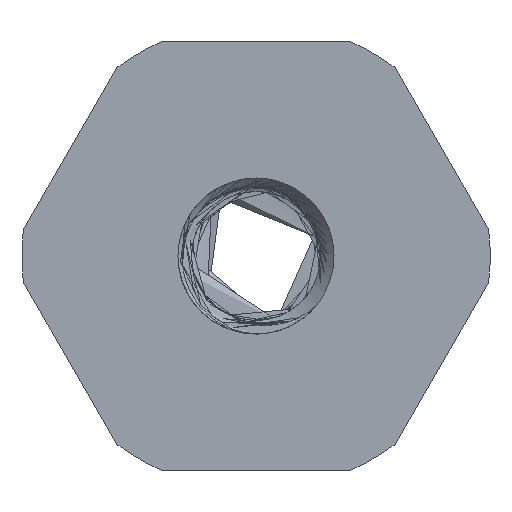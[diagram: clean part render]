
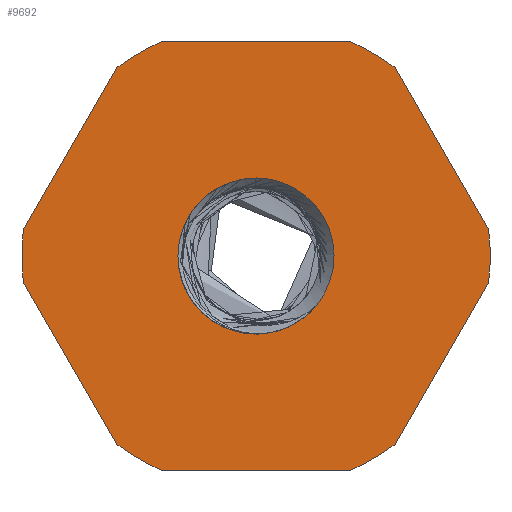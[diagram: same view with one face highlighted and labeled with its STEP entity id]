
A CAD part, front view. The second image highlights one B-rep face of the part: STEP entity #9692.
In plain terms, the highlighted planar face has unit normal (0, -1, 0).
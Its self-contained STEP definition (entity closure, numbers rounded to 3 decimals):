
#29 = CARTESIAN_POINT ( 'NONE',  ( 2.398, 0., 5.5 ) ) ;
#51 = DIRECTION ( 'NONE',  ( 0., 0., 1. ) ) ;
#133 = LINE ( 'NONE', #8823, #10367 ) ;
#136 = VERTEX_POINT ( 'NONE', #324 ) ;
#218 = DIRECTION ( 'NONE',  ( 0., 0., 1. ) ) ;
#291 = EDGE_LOOP ( 'NONE', ( #2740, #8878, #4770, #11653 ) ) ;
#324 = CARTESIAN_POINT ( 'NONE',  ( 3.564, 0., 4.827 ) ) ;
#389 = CARTESIAN_POINT ( 'NONE',  ( 0., 0., 0. ) ) ;
#499 = VERTEX_POINT ( 'NONE', #29 ) ;
#568 = CARTESIAN_POINT ( 'NONE',  ( 0.239, 0., -1.986 ) ) ;
#615 = DIRECTION ( 'NONE',  ( 0., 1., 0. ) ) ;
#748 = ORIENTED_EDGE ( 'NONE', *, *, #10856, .F. ) ;
#826 = DIRECTION ( 'NONE',  ( 1., 0., 0. ) ) ;
#842 = DIRECTION ( 'NONE',  ( 0., 1., 0. ) ) ;
#902 = AXIS2_PLACEMENT_3D ( 'NONE', #1984, #842, #10265 ) ;
#905 = CARTESIAN_POINT ( 'NONE',  ( 0., 0., 0. ) ) ;
#986 = DIRECTION ( 'NONE',  ( 0., 1., 0. ) ) ;
#1097 = VERTEX_POINT ( 'NONE', #7416 ) ;
#1451 = CIRCLE ( 'NONE', #10932, 6. ) ;
#1460 = VECTOR ( 'NONE', #12201, 1000. ) ;
#1470 = ORIENTED_EDGE ( 'NONE', *, *, #3207, .F. ) ;
#1599 = LINE ( 'NONE', #3061, #8759 ) ;
#1619 = ORIENTED_EDGE ( 'NONE', *, *, #2502, .F. ) ;
#1796 = VERTEX_POINT ( 'NONE', #7881 ) ;
#1804 = CARTESIAN_POINT ( 'NONE',  ( -2.398, 0., 5.5 ) ) ;
#1819 = DIRECTION ( 'NONE',  ( 0., 0., 1. ) ) ;
#1955 = CARTESIAN_POINT ( 'NONE',  ( 0., 0., 0. ) ) ;
#1984 = CARTESIAN_POINT ( 'NONE',  ( 0., 0., 0. ) ) ;
#2018 = VERTEX_POINT ( 'NONE', #4236 ) ;
#2382 = ORIENTED_EDGE ( 'NONE', *, *, #3741, .F. ) ;
#2388 = VECTOR ( 'NONE', #3541, 1000. ) ;
#2405 = VERTEX_POINT ( 'NONE', #6373 ) ;
#2502 = EDGE_CURVE ( 'NONE', #2562, #2882, #2506, .T. ) ;
#2506 = CIRCLE ( 'NONE', #9581, 6. ) ;
#2562 = VERTEX_POINT ( 'NONE', #7528 ) ;
#2589 = EDGE_CURVE ( 'NONE', #9565, #7162, #12034, .T. ) ;
#2634 = DIRECTION ( 'NONE',  ( 0., 0., 1. ) ) ;
#2649 = DIRECTION ( 'NONE',  ( 0., 0., 1. ) ) ;
#2660 = DIRECTION ( 'NONE',  ( 0., 1., 0. ) ) ;
#2740 = ORIENTED_EDGE ( 'NONE', *, *, #7240, .T. ) ;
#2804 = FACE_OUTER_BOUND ( 'NONE', #11762, .T. ) ;
#2810 = CARTESIAN_POINT ( 'NONE',  ( 0., 0., 0. ) ) ;
#2852 = CIRCLE ( 'NONE', #6584, 6. ) ;
#2882 = VERTEX_POINT ( 'NONE', #7976 ) ;
#2936 = VERTEX_POINT ( 'NONE', #568 ) ;
#2977 = LINE ( 'NONE', #5300, #2388 ) ;
#3061 = CARTESIAN_POINT ( 'NONE',  ( 0., 0., -5.5 ) ) ;
#3083 = VERTEX_POINT ( 'NONE', #1804 ) ;
#3096 = DIRECTION ( 'NONE',  ( 0.5, 0., -0.866 ) ) ;
#3207 = EDGE_CURVE ( 'NONE', #136, #1097, #133, .T. ) ;
#3340 = VERTEX_POINT ( 'NONE', #7199 ) ;
#3422 = DIRECTION ( 'NONE',  ( 0., 1., 0. ) ) ;
#3481 = CARTESIAN_POINT ( 'NONE',  ( 0., 0., 0. ) ) ;
#3509 = AXIS2_PLACEMENT_3D ( 'NONE', #1955, #7667, #8629 ) ;
#3541 = DIRECTION ( 'NONE',  ( 0.5, 0., 0.866 ) ) ;
#3547 = PLANE ( 'NONE',  #6881 ) ;
#3576 = EDGE_CURVE ( 'NONE', #7580, #7009, #4879, .T. ) ;
#3620 = CARTESIAN_POINT ( 'NONE',  ( 0., 0., 5.5 ) ) ;
#3627 = ORIENTED_EDGE ( 'NONE', *, *, #9086, .F. ) ;
#3678 = CARTESIAN_POINT ( 'NONE',  ( -4.763, 0., -2.75 ) ) ;
#3741 = EDGE_CURVE ( 'NONE', #2018, #7148, #1451, .T. ) ;
#3880 = EDGE_CURVE ( 'NONE', #2405, #3083, #4141, .T. ) ;
#3999 = LINE ( 'NONE', #3678, #1460 ) ;
#4141 = CIRCLE ( 'NONE', #9043, 6. ) ;
#4236 = CARTESIAN_POINT ( 'NONE',  ( 3.564, 0., -4.827 ) ) ;
#4286 = ORIENTED_EDGE ( 'NONE', *, *, #7935, .F. ) ;
#4661 = CARTESIAN_POINT ( 'NONE',  ( 0., 0., 0. ) ) ;
#4731 = DIRECTION ( 'NONE',  ( 0., 1., 0. ) ) ;
#4770 = ORIENTED_EDGE ( 'NONE', *, *, #3576, .T. ) ;
#4787 = DIRECTION ( 'NONE',  ( -1., 0., 0. ) ) ;
#4879 = CIRCLE ( 'NONE', #902, 2. ) ;
#4929 = EDGE_CURVE ( 'NONE', #499, #136, #2852, .T. ) ;
#5271 = AXIS2_PLACEMENT_3D ( 'NONE', #10386, #2660, #10266 ) ;
#5300 = CARTESIAN_POINT ( 'NONE',  ( -4.763, 0., 2.75 ) ) ;
#5317 = CARTESIAN_POINT ( 'NONE',  ( 4.763, 0., -2.75 ) ) ;
#5669 = CARTESIAN_POINT ( 'NONE',  ( -5.962, 0., 0.673 ) ) ;
#5695 = DIRECTION ( 'NONE',  ( 0., 0., 1. ) ) ;
#5812 = VECTOR ( 'NONE', #826, 1000. ) ;
#6182 = EDGE_CURVE ( 'NONE', #2936, #7580, #10412, .T. ) ;
#6217 = EDGE_CURVE ( 'NONE', #7162, #2405, #2977, .T. ) ;
#6343 = DIRECTION ( 'NONE',  ( 0., 0., 1. ) ) ;
#6373 = CARTESIAN_POINT ( 'NONE',  ( -3.564, 0., 4.827 ) ) ;
#6584 = AXIS2_PLACEMENT_3D ( 'NONE', #3481, #615, #2634 ) ;
#6881 = AXIS2_PLACEMENT_3D ( 'NONE', #8252, #3422, #6343 ) ;
#6897 = AXIS2_PLACEMENT_3D ( 'NONE', #8617, #986, #10460 ) ;
#7009 = VERTEX_POINT ( 'NONE', #11280 ) ;
#7044 = DIRECTION ( 'NONE',  ( 0., 1., 0. ) ) ;
#7076 = EDGE_CURVE ( 'NONE', #7009, #3340, #9279, .T. ) ;
#7131 = ORIENTED_EDGE ( 'NONE', *, *, #8529, .F. ) ;
#7148 = VERTEX_POINT ( 'NONE', #12204 ) ;
#7162 = VERTEX_POINT ( 'NONE', #5669 ) ;
#7199 = CARTESIAN_POINT ( 'NONE',  ( 1.553, 0., -1.261 ) ) ;
#7240 = EDGE_CURVE ( 'NONE', #3340, #2936, #11178, .T. ) ;
#7296 = FACE_BOUND ( 'NONE', #291, .T. ) ;
#7416 = CARTESIAN_POINT ( 'NONE',  ( 5.962, 0., 0.673 ) ) ;
#7528 = CARTESIAN_POINT ( 'NONE',  ( -2.398, 0., -5.5 ) ) ;
#7580 = VERTEX_POINT ( 'NONE', #8244 ) ;
#7667 = DIRECTION ( 'NONE',  ( 0., 1., 0. ) ) ;
#7881 = CARTESIAN_POINT ( 'NONE',  ( 5.962, 0., -0.673 ) ) ;
#7935 = EDGE_CURVE ( 'NONE', #1097, #1796, #8811, .T. ) ;
#7976 = CARTESIAN_POINT ( 'NONE',  ( -3.564, 0., -4.827 ) ) ;
#8244 = CARTESIAN_POINT ( 'NONE',  ( 0., 0., -2. ) ) ;
#8252 = CARTESIAN_POINT ( 'NONE',  ( 0., 0., 0. ) ) ;
#8498 = DIRECTION ( 'NONE',  ( 0., 1., 0. ) ) ;
#8529 = EDGE_CURVE ( 'NONE', #3083, #499, #9546, .T. ) ;
#8617 = CARTESIAN_POINT ( 'NONE',  ( 0., 0., 0. ) ) ;
#8629 = DIRECTION ( 'NONE',  ( 0., 0., 1. ) ) ;
#8759 = VECTOR ( 'NONE', #4787, 1000. ) ;
#8811 = CIRCLE ( 'NONE', #11083, 6. ) ;
#8823 = CARTESIAN_POINT ( 'NONE',  ( 4.763, 0., 2.75 ) ) ;
#8878 = ORIENTED_EDGE ( 'NONE', *, *, #6182, .T. ) ;
#8945 = ORIENTED_EDGE ( 'NONE', *, *, #2589, .F. ) ;
#9016 = CARTESIAN_POINT ( 'NONE',  ( -5.962, 0., -0.673 ) ) ;
#9043 = AXIS2_PLACEMENT_3D ( 'NONE', #4661, #12147, #2649 ) ;
#9086 = EDGE_CURVE ( 'NONE', #1796, #2018, #9534, .T. ) ;
#9279 = CIRCLE ( 'NONE', #5271, 2. ) ;
#9483 = ORIENTED_EDGE ( 'NONE', *, *, #4929, .F. ) ;
#9534 = LINE ( 'NONE', #5317, #10538 ) ;
#9546 = LINE ( 'NONE', #3620, #5812 ) ;
#9565 = VERTEX_POINT ( 'NONE', #9016 ) ;
#9581 = AXIS2_PLACEMENT_3D ( 'NONE', #905, #12226, #51 ) ;
#9692 = ADVANCED_FACE ( 'NONE', ( #7296, #2804 ), #3547, .F. ) ;
#10019 = ORIENTED_EDGE ( 'NONE', *, *, #11036, .F. ) ;
#10265 = DIRECTION ( 'NONE',  ( 0., 0., 1. ) ) ;
#10266 = DIRECTION ( 'NONE',  ( 0., 0., 1. ) ) ;
#10267 = AXIS2_PLACEMENT_3D ( 'NONE', #10413, #4731, #5695 ) ;
#10367 = VECTOR ( 'NONE', #3096, 1000. ) ;
#10386 = CARTESIAN_POINT ( 'NONE',  ( 0., 0., 0. ) ) ;
#10412 = CIRCLE ( 'NONE', #6897, 2. ) ;
#10413 = CARTESIAN_POINT ( 'NONE',  ( 0., 0., 0. ) ) ;
#10460 = DIRECTION ( 'NONE',  ( 0., 0., 1. ) ) ;
#10538 = VECTOR ( 'NONE', #11121, 1000. ) ;
#10856 = EDGE_CURVE ( 'NONE', #2882, #9565, #3999, .T. ) ;
#10932 = AXIS2_PLACEMENT_3D ( 'NONE', #389, #7044, #218 ) ;
#11036 = EDGE_CURVE ( 'NONE', #7148, #2562, #1599, .T. ) ;
#11083 = AXIS2_PLACEMENT_3D ( 'NONE', #2810, #8498, #1819 ) ;
#11121 = DIRECTION ( 'NONE',  ( -0.5, 0., -0.866 ) ) ;
#11178 = CIRCLE ( 'NONE', #3509, 2. ) ;
#11280 = CARTESIAN_POINT ( 'NONE',  ( 0., 0., 2. ) ) ;
#11653 = ORIENTED_EDGE ( 'NONE', *, *, #7076, .T. ) ;
#11736 = ORIENTED_EDGE ( 'NONE', *, *, #6217, .F. ) ;
#11762 = EDGE_LOOP ( 'NONE', ( #7131, #12023, #11736, #8945, #748, #1619, #10019, #2382, #3627, #4286, #1470, #9483 ) ) ;
#12023 = ORIENTED_EDGE ( 'NONE', *, *, #3880, .F. ) ;
#12034 = CIRCLE ( 'NONE', #10267, 6. ) ;
#12147 = DIRECTION ( 'NONE',  ( 0., 1., 0. ) ) ;
#12201 = DIRECTION ( 'NONE',  ( -0.5, 0., 0.866 ) ) ;
#12204 = CARTESIAN_POINT ( 'NONE',  ( 2.398, 0., -5.5 ) ) ;
#12226 = DIRECTION ( 'NONE',  ( 0., 1., 0. ) ) ;
